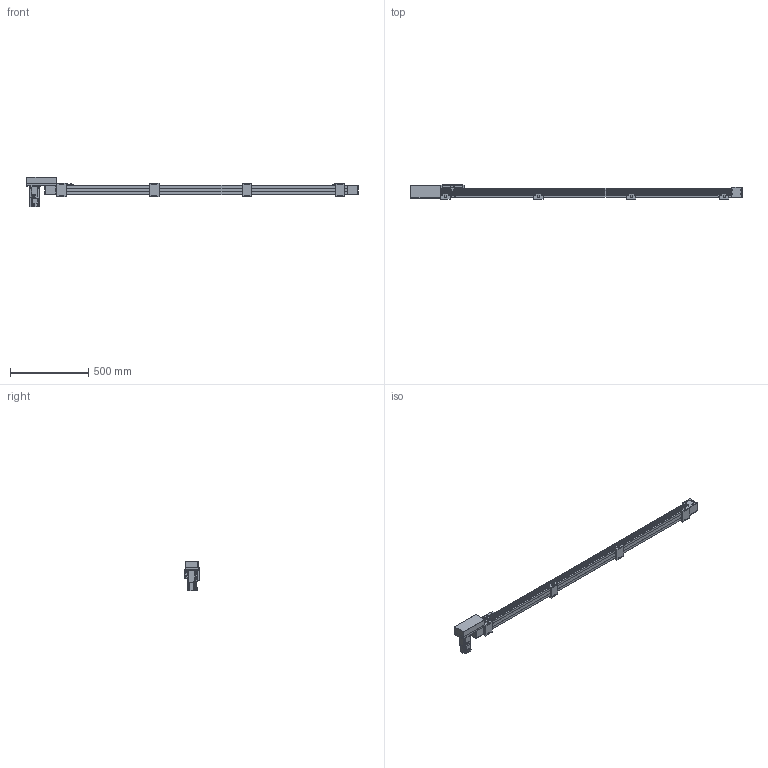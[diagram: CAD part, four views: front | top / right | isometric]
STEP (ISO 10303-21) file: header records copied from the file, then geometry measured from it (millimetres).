
FILE_DESCRIPTION(/* description */ ('STEP AP214'),/* implementation_level */ '2;1');
FILE_NAME(/* name */ 'SK60-P13-S1700-R-T40-C1-N(0)',/* time_stamp */ '2023-04-06T04:27:53+02:00',/* author */ ('License CC BY-ND 4.0'),/* organization */ ('CADENAS'),/* preprocessor_version */ 'ST-DEVELOPER v19.3',/* originating_system */ 'PARTsolutions',/* authorisation */ ' ');
FILE_SCHEMA (('AUTOMOTIVE_DESIGN {1 0 10303 214 3 1 1}'));
Length unit declared in the file: millimetre
Products named in the file (10): SK60-P13-S1700-R-T40-C1-N(0); PSC140-sensor; SK60-S450_seat; SK60-S450-BL-C1_slider; SK60_body3; SK60_body6; SK60-BL_body2; T40-p1; SK60-R_fb; SK60-S1700-R-C1_body
Assembly tree (18 placements, depth 2):
  SK60-P13-S1700-R-T40-C1-N(0)
    PSC140-sensor  x3
    SK60-S450_seat  x4
    SK60-S450-BL-C1_slider
    SK60_body3  x3
    SK60_body6  x2
    SK60-BL_body2  x2
    T40-p1
    SK60-R_fb
    SK60-S1700-R-C1_body
Bounding box: 2120.5 x 90 x 189.7 mm (x, y, z)
Volume: 8017179.5 mm3; surface area: 970538.7 mm2
Topology: 18 solids, 18 shells, 898 faces, 2244 edges, 1477 vertices
Faces by surface type: plane 572, cylinder 294, cone 30, torus 2
Full cylindrical faces by diameter (mm): 2.8 x3, 3.3 x4, 4 x2, 4.5 x30, 4.6 x3, 4.917 x24, 5 x6, 5.478 x4, 5.5 x27, 6.5 x8, 7 x2, 8 x4, 8.5 x4, 9.988 x4, 10 x16, 14 x1, 47 x3, 50 x2
Entity records: 18671 total; most frequent: DIRECTION 3188, CARTESIAN_POINT 3152, ORIENTED_EDGE 2940, EDGE_CURVE 1470, AXIS2_PLACEMENT_3D 1070, LINE 1048, VECTOR 1048, VERTEX_POINT 1034
